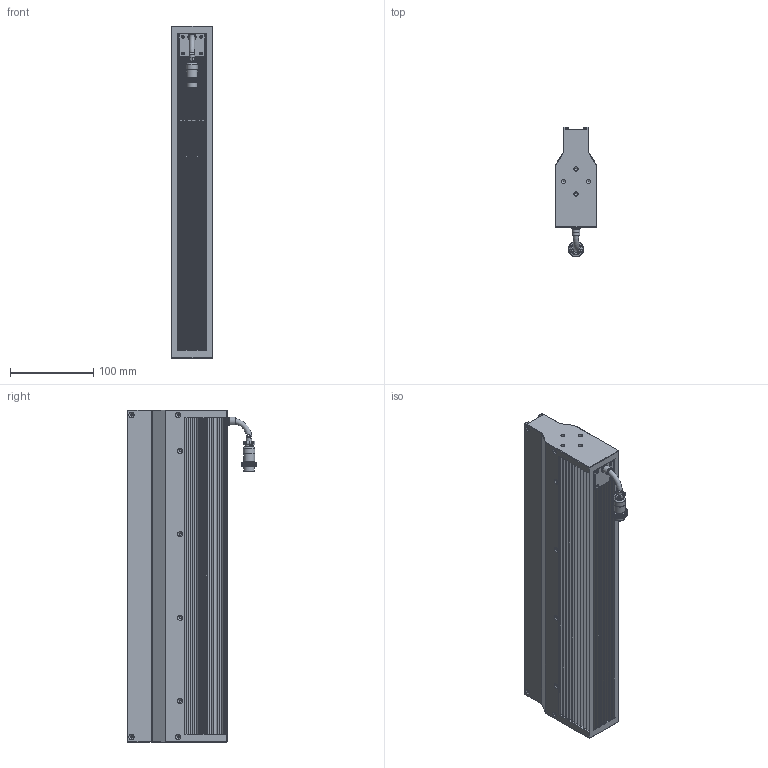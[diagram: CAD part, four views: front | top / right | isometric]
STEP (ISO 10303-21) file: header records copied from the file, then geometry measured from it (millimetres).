
FILE_DESCRIPTION (( 'STEP AP203' ), '1' );
FILE_NAME ('OPT-LSNL398-R-V1.1尨砩芞.STEP', '2025-02-18T01:10:45', ( '' ), ( '' ), 'SwSTEP 2.0', 'SolidWorks 2016', '' );
FILE_SCHEMA (( 'CONFIG_CONTROL_DESIGN' ));
Products named in the file (1): OPT-LSNL398-R-V1.1尨砩芞
Bounding box: 50.02 x 155.15 x 398 mm (x, y, z)
Volume: 1445465.4 mm3; surface area: 484275 mm2
Topology: 5 solids, 10 shells, 3604 faces, 8195 edges, 4621 vertices
Faces by surface type: bspline 2059, cylinder 757, plane 741, cone 39, torus 8
Full cylindrical faces by diameter (mm): 0.95 x6, 1.1 x2, 1.4 x2, 2 x4, 2.5 x10, 3 x12, 3.4 x16, 3.5 x4, 5 x8, 6.4 x3, 7.5 x1, 8.6 x1, 9.3 x1, 9.8 x1, 10 x1, 13.2 x1, 14 x1, 16.1 x1
Entity records: 125870 total; most frequent: CARTESIAN_POINT 64560, ORIENTED_EDGE 16030, EDGE_CURVE 8015, DIRECTION 5952, B_SPLINE_CURVE_WITH_KNOTS 5574, VERTEX_POINT 4567, EDGE_LOOP 3796, FACE_OUTER_BOUND 3687
